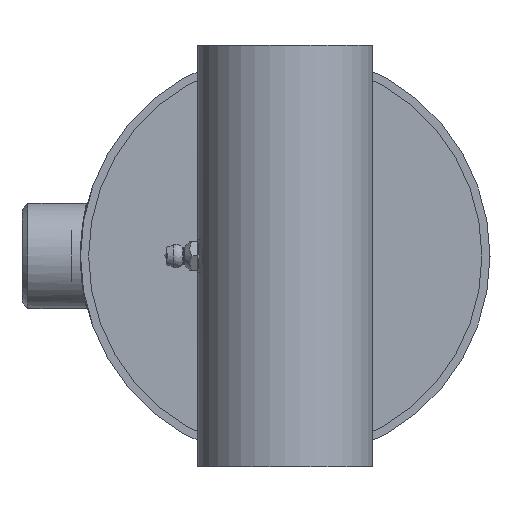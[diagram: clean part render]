
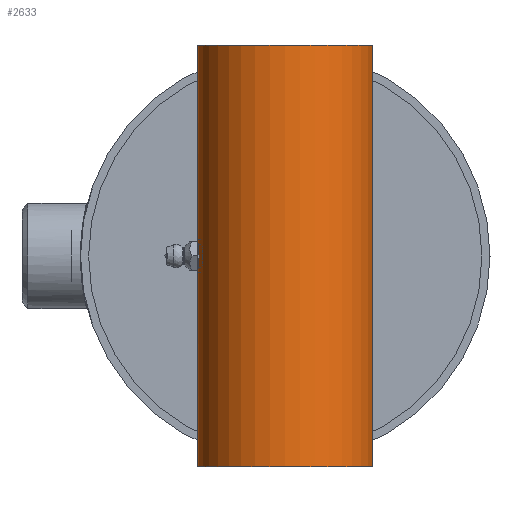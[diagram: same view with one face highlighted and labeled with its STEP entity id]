
A CAD part, left-side view. The second image highlights one B-rep face of the part: STEP entity #2633.
In plain terms, the highlighted cylindrical face has radius 23.812 mm (diameter 47.625 mm), a full revolution.
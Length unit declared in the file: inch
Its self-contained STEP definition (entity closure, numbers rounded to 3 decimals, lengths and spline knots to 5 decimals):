
#334=B_SPLINE_CURVE_WITH_KNOTS($,3,(#4868,#4869,#4870,#4871,#4872,#4873,
#4874,#4875,#4876,#4877,#4878,#4879,#4880,#4881,#4882,#4883,#4884,#4885),
 .UNSPECIFIED.,.F.,.F.,(4,2,2,2,2,2,2,2,4),(0.66759,0.83448,
1.00138,1.16828,1.33518,1.50208,1.66898,
1.83587,2.00277),.UNSPECIFIED.);
#335=B_SPLINE_CURVE_WITH_KNOTS($,3,(#4886,#4887,#4888,#4889,#4890,#4891,
#4892,#4893,#4894,#4895,#4896,#4897,#4898,#4899,#4900,#4901,#4902,#4903,
#4904),.UNSPECIFIED.,.F.,.F.,(4,2,2,2,3,2,2,2,4),(2.00277,2.16966,
2.33655,2.50345,2.67036,2.83726,3.00416,
3.17105,3.33794),.UNSPECIFIED.);
#365=CYLINDRICAL_SURFACE($,#2911,0.9375);
#537=FACE_BOUND($,#941,.T.);
#538=FACE_BOUND($,#942,.T.);
#539=FACE_BOUND($,#943,.T.);
#941=EDGE_LOOP($,(#2050,#2051));
#942=EDGE_LOOP($,(#2052));
#943=EDGE_LOOP($,(#2053));
#1261=CIRCLE($,#2910,0.9375);
#1262=CIRCLE($,#2912,0.9375);
#1444=VERTEX_POINT($,#4866);
#1445=VERTEX_POINT($,#4867);
#1449=VERTEX_POINT($,#4946);
#1450=VERTEX_POINT($,#4949);
#1693=EDGE_CURVE($,#1444,#1445,#334,.T.);
#1694=EDGE_CURVE($,#1445,#1444,#335,.T.);
#1698=EDGE_CURVE($,#1449,#1449,#1261,.T.);
#1699=EDGE_CURVE($,#1450,#1450,#1262,.T.);
#2050=ORIENTED_EDGE($,*,*,#1693,.T.);
#2051=ORIENTED_EDGE($,*,*,#1694,.T.);
#2052=ORIENTED_EDGE($,*,*,#1698,.T.);
#2053=ORIENTED_EDGE($,*,*,#1699,.T.);
#2633=ADVANCED_FACE($,(#537,#538,#539),#365,.T.);
#2910=AXIS2_PLACEMENT_3D($,#4947,#3407,#3408);
#2911=AXIS2_PLACEMENT_3D($,#4948,#3409,#3410);
#2912=AXIS2_PLACEMENT_3D($,#4950,#3411,#3412);
#3407=DIRECTION('center_axis',(0.,0.,1.));
#3408=DIRECTION('ref_axis',(-1.,0.,0.));
#3409=DIRECTION('center_axis',(0.,0.,1.));
#3410=DIRECTION('ref_axis',(-1.,0.,0.));
#3411=DIRECTION('center_axis',(0.,0.,-1.));
#3412=DIRECTION('ref_axis',(-1.,0.,0.));
#4866=CARTESIAN_POINT('',(0.,0.9375,-0.174));
#4867=CARTESIAN_POINT('',(0.,0.9375,0.174));
#4868=CARTESIAN_POINT('Ctrl Pts',(0.,0.9375,-0.174));
#4869=CARTESIAN_POINT('Ctrl Pts',(0.0219,0.9375,-0.174));
#4870=CARTESIAN_POINT('Ctrl Pts',(0.04523,0.93665,
-0.16961));
#4871=CARTESIAN_POINT('Ctrl Pts',(0.08808,0.9336,
-0.15184));
#4872=CARTESIAN_POINT('Ctrl Pts',(0.10762,0.93143,-0.13846));
#4873=CARTESIAN_POINT('Ctrl Pts',(0.13846,0.92735,-0.10762));
#4874=CARTESIAN_POINT('Ctrl Pts',(0.15184,0.92517,-0.08808));
#4875=CARTESIAN_POINT('Ctrl Pts',(0.16961,0.92207,-0.04523));
#4876=CARTESIAN_POINT('Ctrl Pts',(0.174,0.92121,-0.0219));
#4877=CARTESIAN_POINT('Ctrl Pts',(0.174,0.92121,0.0219));
#4878=CARTESIAN_POINT('Ctrl Pts',(0.16961,0.92207,0.04523));
#4879=CARTESIAN_POINT('Ctrl Pts',(0.15184,0.92517,0.08808));
#4880=CARTESIAN_POINT('Ctrl Pts',(0.13846,0.92735,0.10762));
#4881=CARTESIAN_POINT('Ctrl Pts',(0.10762,0.93143,0.13846));
#4882=CARTESIAN_POINT('Ctrl Pts',(0.08808,0.9336,
0.15184));
#4883=CARTESIAN_POINT('Ctrl Pts',(0.04523,0.93665,
0.16961));
#4884=CARTESIAN_POINT('Ctrl Pts',(0.0219,0.9375,0.174));
#4885=CARTESIAN_POINT('Ctrl Pts',(0.,0.9375,0.174));
#4886=CARTESIAN_POINT('Ctrl Pts',(0.,0.9375,0.174));
#4887=CARTESIAN_POINT('Ctrl Pts',(-0.0219,0.9375,0.174));
#4888=CARTESIAN_POINT('Ctrl Pts',(-0.04523,0.93665,
0.16961));
#4889=CARTESIAN_POINT('Ctrl Pts',(-0.08808,0.9336,
0.15184));
#4890=CARTESIAN_POINT('Ctrl Pts',(-0.10762,0.93143,
0.13846));
#4891=CARTESIAN_POINT('Ctrl Pts',(-0.13846,0.92735,0.10762));
#4892=CARTESIAN_POINT('Ctrl Pts',(-0.15184,0.92517,
0.08808));
#4893=CARTESIAN_POINT('Ctrl Pts',(-0.16961,0.92207,
0.04523));
#4894=CARTESIAN_POINT('Ctrl Pts',(-0.174,0.92121,0.0219));
#4895=CARTESIAN_POINT('Ctrl Pts',(-0.174,0.92121,0.));
#4896=CARTESIAN_POINT('Ctrl Pts',(-0.174,0.92121,-0.0219));
#4897=CARTESIAN_POINT('Ctrl Pts',(-0.16961,0.92207,
-0.04523));
#4898=CARTESIAN_POINT('Ctrl Pts',(-0.15184,0.92517,
-0.08808));
#4899=CARTESIAN_POINT('Ctrl Pts',(-0.13846,0.92735,-0.10762));
#4900=CARTESIAN_POINT('Ctrl Pts',(-0.10762,0.93143,
-0.13846));
#4901=CARTESIAN_POINT('Ctrl Pts',(-0.08808,0.9336,
-0.15184));
#4902=CARTESIAN_POINT('Ctrl Pts',(-0.04523,0.93665,
-0.16961));
#4903=CARTESIAN_POINT('Ctrl Pts',(-0.0219,0.9375,-0.174));
#4904=CARTESIAN_POINT('Ctrl Pts',(0.,0.9375,-0.174));
#4946=CARTESIAN_POINT('',(0.9375,0.,-2.25));
#4947=CARTESIAN_POINT('Origin',(0.,0.,-2.25));
#4948=CARTESIAN_POINT('Origin',(0.,0.,0.));
#4949=CARTESIAN_POINT('',(0.9375,0.,2.25));
#4950=CARTESIAN_POINT('Origin',(0.,0.,2.25));
